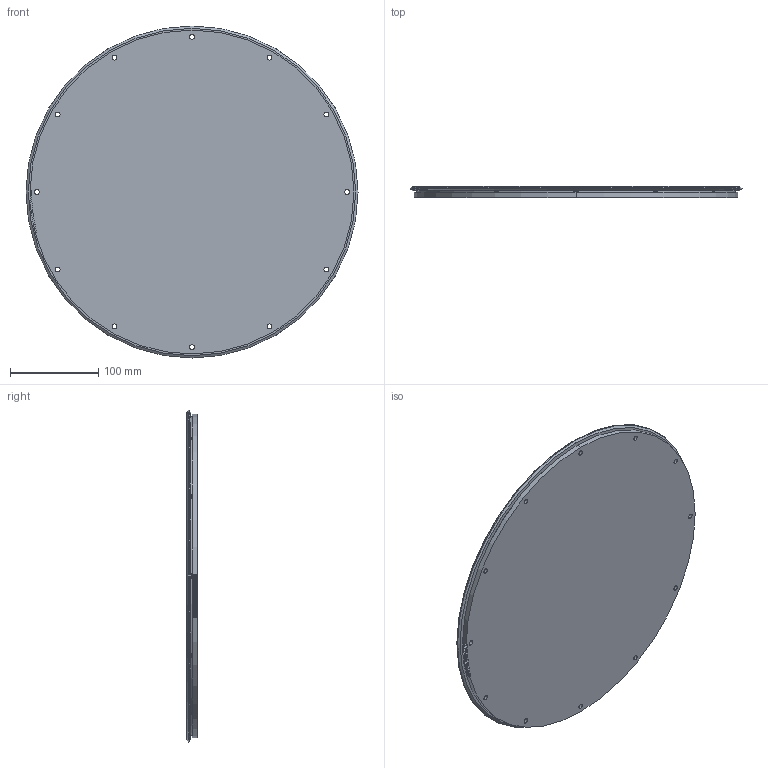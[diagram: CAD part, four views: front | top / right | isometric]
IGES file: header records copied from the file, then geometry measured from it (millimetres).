
Start section: 3D InterOp IGES (v. 2020 1.0.1), Spatial Corp. Copyright (c) 1999-2017.
Global section: file name: rd25_351_p_l.igs; native system: Spatial Corp.; preprocessor: 3D InterOp ACIS/IGES; author: TraceParts; organization: TraceParts S.A.; date: 20220624.042214; units: millimetre
Bounding box: 375.61 x 12.25 x 375.61 mm (x, y, z)
Surface area: 248165.8 mm2 (no closed solid volume)
Topology: 0 solids, 0 shells, 186 faces, 994 edges, 994 vertices
Faces by surface type: extrusion 119, revolution 67
